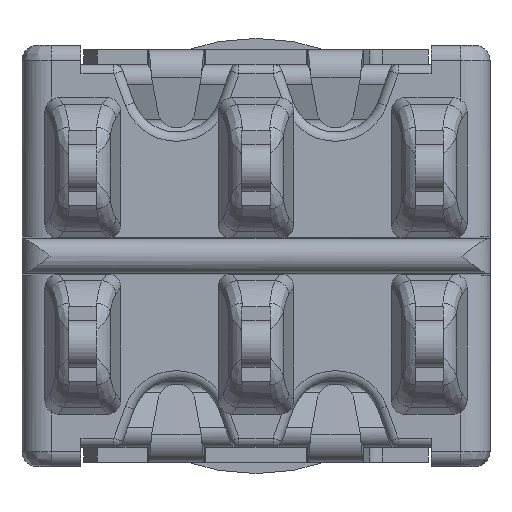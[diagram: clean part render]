
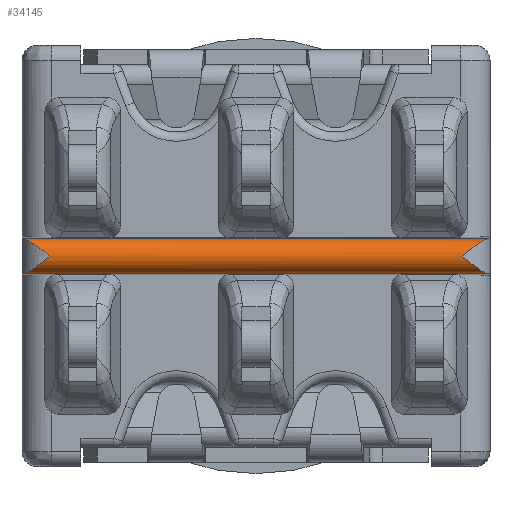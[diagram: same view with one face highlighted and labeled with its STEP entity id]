
A CAD part, front view. The second image highlights one B-rep face of the part: STEP entity #34145.
In plain terms, the highlighted cylindrical face has radius 0.466 mm (diameter 0.933 mm), a partial arc.
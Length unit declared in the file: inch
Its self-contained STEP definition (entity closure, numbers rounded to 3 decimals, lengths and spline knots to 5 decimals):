
#9555=DIRECTION('',(1.,0.,0.));
#9556=VECTOR('',#9555,0.49474);
#9557=CARTESIAN_POINT('',(-0.24737,-0.20753,
-0.01852));
#9558=LINE('',#9557,#9556);
#11258=CARTESIAN_POINT('',(0.2473,-0.20768,
0.01817));
#11263=CARTESIAN_POINT('',(-0.2473,-0.20768,
0.01817));
#11727=CARTESIAN_POINT('',(-0.2473,-0.20768,
0.01817));
#11728=CARTESIAN_POINT('',(-0.24699,-0.20838,
0.01814));
#11729=CARTESIAN_POINT('',(-0.24628,-0.20979,
0.018));
#11730=CARTESIAN_POINT('',(-0.24498,-0.21192,
0.01753));
#11731=CARTESIAN_POINT('',(-0.24343,-0.21405,
0.01678));
#11732=CARTESIAN_POINT('',(-0.24159,-0.21615,
0.01574));
#11733=CARTESIAN_POINT('',(-0.23942,-0.21818,
0.01437));
#11734=CARTESIAN_POINT('',(-0.23692,-0.22009,
0.01267));
#11735=CARTESIAN_POINT('',(-0.23407,-0.22182,
0.01063));
#11736=CARTESIAN_POINT('',(-0.2309,-0.22328,
0.00827));
#11737=CARTESIAN_POINT('',(-0.22743,-0.22439,
0.00562));
#11738=CARTESIAN_POINT('',(-0.22378,-0.22509,
0.00278));
#11739=CARTESIAN_POINT('',(-0.22127,-0.22525,0.00082));
#11740=CARTESIAN_POINT('',(-0.22,-0.22525,-0.00017));
#11742=DIRECTION('',(1.,0.,0.));
#11743=VECTOR('',#11742,0.49461);
#11744=CARTESIAN_POINT('',(-0.2473,-0.20768,
0.01817));
#11745=LINE('',#11744,#11743);
#11746=CARTESIAN_POINT('',(0.22,-0.22525,-0.00017));
#11747=CARTESIAN_POINT('',(0.22127,-0.22525,0.00082));
#11748=CARTESIAN_POINT('',(0.22378,-0.22509,
0.00278));
#11749=CARTESIAN_POINT('',(0.22743,-0.22439,
0.00562));
#11750=CARTESIAN_POINT('',(0.2309,-0.22328,
0.00827));
#11751=CARTESIAN_POINT('',(0.23407,-0.22182,
0.01063));
#11752=CARTESIAN_POINT('',(0.23692,-0.22009,
0.01267));
#11753=CARTESIAN_POINT('',(0.23942,-0.21818,
0.01437));
#11754=CARTESIAN_POINT('',(0.24159,-0.21615,
0.01574));
#11755=CARTESIAN_POINT('',(0.24343,-0.21405,
0.01678));
#11756=CARTESIAN_POINT('',(0.24498,-0.21192,
0.01753));
#11757=CARTESIAN_POINT('',(0.24628,-0.20979,
0.018));
#11758=CARTESIAN_POINT('',(0.24699,-0.20838,
0.01814));
#11759=CARTESIAN_POINT('',(0.2473,-0.20768,
0.01817));
#11761=CARTESIAN_POINT('',(0.24737,-0.20753,
-0.01852));
#11762=CARTESIAN_POINT('',(0.24706,-0.20823,
-0.0185));
#11763=CARTESIAN_POINT('',(0.24635,-0.20965,
-0.01837));
#11764=CARTESIAN_POINT('',(0.24507,-0.2118,
-0.01791));
#11765=CARTESIAN_POINT('',(0.24352,-0.21394,
-0.01718));
#11766=CARTESIAN_POINT('',(0.24168,-0.21606,
-0.01614));
#11767=CARTESIAN_POINT('',(0.23951,-0.21811,
-0.01478));
#11768=CARTESIAN_POINT('',(0.23701,-0.22003,
-0.01308));
#11769=CARTESIAN_POINT('',(0.23415,-0.22178,
-0.01104));
#11770=CARTESIAN_POINT('',(0.23096,-0.22325,
-0.00866));
#11771=CARTESIAN_POINT('',(0.22748,-0.22438,
-0.006));
#11772=CARTESIAN_POINT('',(0.2238,-0.22509,
-0.00315));
#11773=CARTESIAN_POINT('',(0.22128,-0.22525,-0.00117));
#11774=CARTESIAN_POINT('',(0.22,-0.22525,-0.00017));
#11776=CARTESIAN_POINT('',(-0.22,-0.22525,-0.00017));
#11777=CARTESIAN_POINT('',(-0.22128,-0.22525,-0.00117));
#11778=CARTESIAN_POINT('',(-0.2238,-0.22509,
-0.00315));
#11779=CARTESIAN_POINT('',(-0.22748,-0.22438,
-0.006));
#11780=CARTESIAN_POINT('',(-0.23096,-0.22325,
-0.00866));
#11781=CARTESIAN_POINT('',(-0.23415,-0.22178,
-0.01104));
#11782=CARTESIAN_POINT('',(-0.23701,-0.22003,
-0.01308));
#11783=CARTESIAN_POINT('',(-0.23951,-0.21811,
-0.01478));
#11784=CARTESIAN_POINT('',(-0.24168,-0.21606,
-0.01614));
#11785=CARTESIAN_POINT('',(-0.24352,-0.21394,
-0.01718));
#11786=CARTESIAN_POINT('',(-0.24507,-0.2118,
-0.01791));
#11787=CARTESIAN_POINT('',(-0.24635,-0.20965,
-0.01837));
#11788=CARTESIAN_POINT('',(-0.24706,-0.20823,
-0.0185));
#11789=CARTESIAN_POINT('',(-0.24737,-0.20753,
-0.01852));
#19019=VERTEX_POINT('',#11258);
#19020=VERTEX_POINT('',#11746);
#19021=VERTEX_POINT('',#11761);
#19026=VERTEX_POINT('',#11263);
#19027=VERTEX_POINT('',#11740);
#19028=VERTEX_POINT('',#11789);
#34130=CARTESIAN_POINT('',(-0.25,-0.20689,-0.00017));
#34131=DIRECTION('',(1.,0.,0.));
#34132=DIRECTION('',(0.,0.,-1.));
#34133=AXIS2_PLACEMENT_3D('',#34130,#34131,#34132);
#34134=CYLINDRICAL_SURFACE('',#34133,0.01836);
#34136=ORIENTED_EDGE('',*,*,#34135,.F.);
#34137=ORIENTED_EDGE('',*,*,#33370,.T.);
#34138=ORIENTED_EDGE('',*,*,#34123,.F.);
#34139=ORIENTED_EDGE('',*,*,#34121,.F.);
#34140=ORIENTED_EDGE('',*,*,#30807,.F.);
#34142=ORIENTED_EDGE('',*,*,#34141,.F.);
#34143=EDGE_LOOP('',(#34136,#34137,#34138,#34139,#34140,#34142));
#34144=FACE_OUTER_BOUND('',#34143,.F.);
#34145=ADVANCED_FACE('',(#34144),#34134,.T.);
#11741=B_SPLINE_CURVE_WITH_KNOTS('',3,(#11727,#11728,#11729,#11730,#11731,
#11732,#11733,#11734,#11735,#11736,#11737,#11738,#11739,#11740),.UNSPECIFIED.,
.F.,.F.,(4,1,1,1,1,1,1,1,1,1,1,4),(0.,0.09091,0.18182,
0.27273,0.36364,0.45455,0.54545,
0.63636,0.72727,0.81818,0.90909,1.),
.UNSPECIFIED.);
#11760=B_SPLINE_CURVE_WITH_KNOTS('',3,(#11746,#11747,#11748,#11749,#11750,
#11751,#11752,#11753,#11754,#11755,#11756,#11757,#11758,#11759),.UNSPECIFIED.,
.F.,.F.,(4,1,1,1,1,1,1,1,1,1,1,4),(0.,0.09091,0.18182,
0.27273,0.36364,0.45455,0.54545,
0.63636,0.72727,0.81818,0.90909,1.),
.UNSPECIFIED.);
#11775=B_SPLINE_CURVE_WITH_KNOTS('',3,(#11761,#11762,#11763,#11764,#11765,
#11766,#11767,#11768,#11769,#11770,#11771,#11772,#11773,#11774),.UNSPECIFIED.,
.F.,.F.,(4,1,1,1,1,1,1,1,1,1,1,4),(0.,0.09091,0.18182,
0.27273,0.36364,0.45455,0.54545,
0.63636,0.72727,0.81818,0.90909,1.),
.UNSPECIFIED.);
#11790=B_SPLINE_CURVE_WITH_KNOTS('',3,(#11776,#11777,#11778,#11779,#11780,
#11781,#11782,#11783,#11784,#11785,#11786,#11787,#11788,#11789),.UNSPECIFIED.,
.F.,.F.,(4,1,1,1,1,1,1,1,1,1,1,4),(0.,0.09091,0.18182,
0.27273,0.36364,0.45455,0.54545,
0.63636,0.72727,0.81818,0.90909,1.),
.UNSPECIFIED.);
#30807=EDGE_CURVE('',#19028,#19021,#9558,.T.);
#33370=EDGE_CURVE('',#19026,#19019,#11745,.T.);
#34121=EDGE_CURVE('',#19021,#19020,#11775,.T.);
#34123=EDGE_CURVE('',#19020,#19019,#11760,.T.);
#34135=EDGE_CURVE('',#19026,#19027,#11741,.T.);
#34141=EDGE_CURVE('',#19027,#19028,#11790,.T.);
